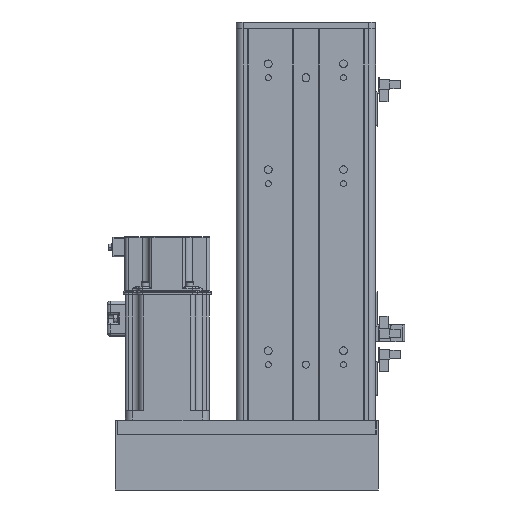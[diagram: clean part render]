
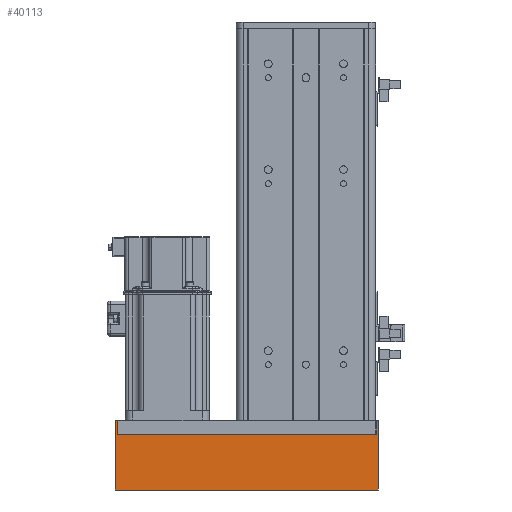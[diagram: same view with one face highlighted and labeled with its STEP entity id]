
A CAD part, front view. The second image highlights one B-rep face of the part: STEP entity #40113.
In plain terms, the highlighted planar face has unit normal (0, -1, 0).
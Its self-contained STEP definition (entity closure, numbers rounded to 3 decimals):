
#114 = EDGE_LOOP ( 'NONE', ( #63848, #30378, #5792, #13637, #25801, #29916, #30814, #11953 ) ) ;
#636 = CARTESIAN_POINT ( 'NONE',  ( -94.4, -35.5, 48.4 ) ) ;
#1355 = LINE ( 'NONE', #51858, #15176 ) ;
#2108 = CARTESIAN_POINT ( 'NONE',  ( 94.6, -35.5, 48.4 ) ) ;
#4155 = CARTESIAN_POINT ( 'NONE',  ( -92.8, -35.5, 0. ) ) ;
#4347 = LINE ( 'NONE', #12045, #34505 ) ;
#4624 = LINE ( 'NONE', #25980, #8694 ) ;
#4891 = EDGE_CURVE ( 'NONE', #58527, #20818, #15213, .T. ) ;
#5792 = ORIENTED_EDGE ( 'NONE', *, *, #13781, .T. ) ;
#6611 = DIRECTION ( 'NONE',  ( 0., 0., -1. ) ) ;
#6805 = LINE ( 'NONE', #2108, #36212 ) ;
#7371 = CARTESIAN_POINT ( 'NONE',  ( 94.6, -35.5, 50. ) ) ;
#8462 = CARTESIAN_POINT ( 'NONE',  ( 93., -35.5, 0. ) ) ;
#8694 = VECTOR ( 'NONE', #52553, 1000. ) ;
#9801 = VERTEX_POINT ( 'NONE', #4155 ) ;
#10183 = VERTEX_POINT ( 'NONE', #33740 ) ;
#10542 = FACE_OUTER_BOUND ( 'NONE', #114, .T. ) ;
#11953 = ORIENTED_EDGE ( 'NONE', *, *, #62668, .F. ) ;
#12045 = CARTESIAN_POINT ( 'NONE',  ( -92.8, -35.5, 48.4 ) ) ;
#12992 = CARTESIAN_POINT ( 'NONE',  ( -94.4, -35.5, 50. ) ) ;
#13637 = ORIENTED_EDGE ( 'NONE', *, *, #67631, .F. ) ;
#13781 = EDGE_CURVE ( 'NONE', #17585, #40652, #6805, .T. ) ;
#14834 = LINE ( 'NONE', #63842, #26342 ) ;
#15176 = VECTOR ( 'NONE', #40761, 1000. ) ;
#15213 = LINE ( 'NONE', #59208, #16838 ) ;
#16838 = VECTOR ( 'NONE', #33664, 1000. ) ;
#17585 = VERTEX_POINT ( 'NONE', #50415 ) ;
#18809 = AXIS2_PLACEMENT_3D ( 'NONE', #25542, #25086, #35524 ) ;
#20818 = VERTEX_POINT ( 'NONE', #53334 ) ;
#25086 = DIRECTION ( 'NONE',  ( 0., 1., 0. ) ) ;
#25542 = CARTESIAN_POINT ( 'NONE',  ( -92.8, -35.5, 48.4 ) ) ;
#25801 = ORIENTED_EDGE ( 'NONE', *, *, #61105, .F. ) ;
#25980 = CARTESIAN_POINT ( 'NONE',  ( -92.8, -35.5, 50. ) ) ;
#26342 = VECTOR ( 'NONE', #53125, 1000. ) ;
#27358 = DIRECTION ( 'NONE',  ( 0., 0., 1. ) ) ;
#28171 = VECTOR ( 'NONE', #27358, 1000. ) ;
#28455 = DIRECTION ( 'NONE',  ( -1., 0., 0. ) ) ;
#29916 = ORIENTED_EDGE ( 'NONE', *, *, #60013, .F. ) ;
#30378 = ORIENTED_EDGE ( 'NONE', *, *, #51496, .F. ) ;
#30814 = ORIENTED_EDGE ( 'NONE', *, *, #55399, .F. ) ;
#31427 = LINE ( 'NONE', #636, #28171 ) ;
#33664 = DIRECTION ( 'NONE',  ( 0., 0., 1. ) ) ;
#33740 = CARTESIAN_POINT ( 'NONE',  ( -92.8, -35.5, 10. ) ) ;
#34505 = VECTOR ( 'NONE', #6611, 1000. ) ;
#35524 = DIRECTION ( 'NONE',  ( 0., 0., 1. ) ) ;
#35588 = VECTOR ( 'NONE', #28455, 1000. ) ;
#36212 = VECTOR ( 'NONE', #54529, 1000. ) ;
#40113 = ADVANCED_FACE ( 'NONE', ( #10542 ), #56689, .F. ) ;
#40652 = VERTEX_POINT ( 'NONE', #7371 ) ;
#40761 = DIRECTION ( 'NONE',  ( -1., 0., 0. ) ) ;
#43814 = CARTESIAN_POINT ( 'NONE',  ( -94.4, -35.5, 0. ) ) ;
#49418 = LINE ( 'NONE', #59663, #35588 ) ;
#50415 = CARTESIAN_POINT ( 'NONE',  ( 94.6, -35.5, 0. ) ) ;
#51496 = EDGE_CURVE ( 'NONE', #17585, #58527, #49418, .T. ) ;
#51858 = CARTESIAN_POINT ( 'NONE',  ( -92.8, -35.5, 0. ) ) ;
#52553 = DIRECTION ( 'NONE',  ( 1., 0., 0. ) ) ;
#53125 = DIRECTION ( 'NONE',  ( -1., 0., 0. ) ) ;
#53334 = CARTESIAN_POINT ( 'NONE',  ( 93., -35.5, 10. ) ) ;
#54529 = DIRECTION ( 'NONE',  ( 0., 0., 1. ) ) ;
#55399 = EDGE_CURVE ( 'NONE', #10183, #9801, #4347, .T. ) ;
#55778 = VERTEX_POINT ( 'NONE', #43814 ) ;
#56689 = PLANE ( 'NONE',  #18809 ) ;
#58527 = VERTEX_POINT ( 'NONE', #8462 ) ;
#59208 = CARTESIAN_POINT ( 'NONE',  ( 93., -35.5, 48.4 ) ) ;
#59663 = CARTESIAN_POINT ( 'NONE',  ( -92.8, -35.5, 0. ) ) ;
#60013 = EDGE_CURVE ( 'NONE', #9801, #55778, #1355, .T. ) ;
#60783 = VERTEX_POINT ( 'NONE', #12992 ) ;
#61105 = EDGE_CURVE ( 'NONE', #55778, #60783, #31427, .T. ) ;
#62668 = EDGE_CURVE ( 'NONE', #20818, #10183, #14834, .T. ) ;
#63842 = CARTESIAN_POINT ( 'NONE',  ( -92.8, -35.5, 10. ) ) ;
#63848 = ORIENTED_EDGE ( 'NONE', *, *, #4891, .F. ) ;
#67631 = EDGE_CURVE ( 'NONE', #60783, #40652, #4624, .T. ) ;
